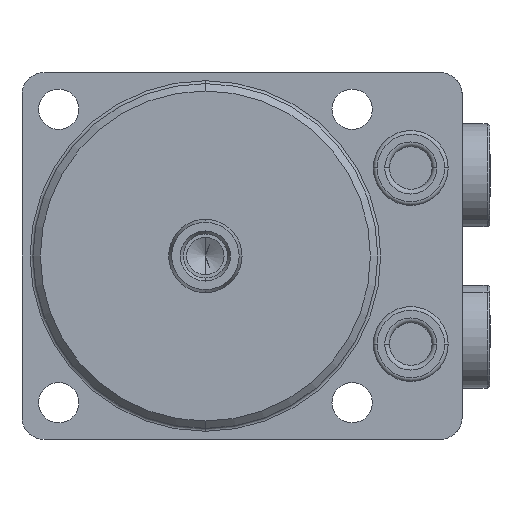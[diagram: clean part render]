
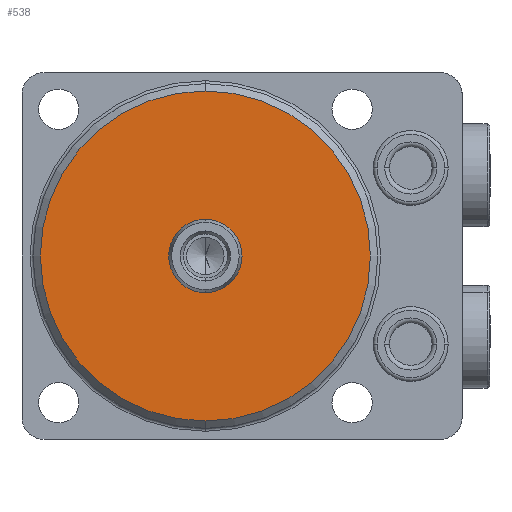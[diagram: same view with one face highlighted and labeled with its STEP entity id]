
A CAD part, front view. The second image highlights one B-rep face of the part: STEP entity #538.
In plain terms, the highlighted planar face has unit normal (0, -1, 0) as drawn and (0, 1, 0) by its records, which use the part's own axes.
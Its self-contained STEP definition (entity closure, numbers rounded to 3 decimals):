
#223=PLANE('',#3590);
#278=FACE_BOUND('',#971,.F.);
#279=FACE_BOUND('',#972,.F.);
#538=ADVANCED_FACE('',(#278,#279),#223,.T.);
#971=EDGE_LOOP('',(#2067,#2068));
#972=EDGE_LOOP('',(#2069,#2070));
#2067=ORIENTED_EDGE('',*,*,#2981,.T.);
#2068=ORIENTED_EDGE('',*,*,#2906,.T.);
#2069=ORIENTED_EDGE('',*,*,#2982,.T.);
#2070=ORIENTED_EDGE('',*,*,#2918,.T.);
#2516=VERTEX_POINT('',#5545);
#2517=VERTEX_POINT('',#5546);
#2528=VERTEX_POINT('',#5572);
#2529=VERTEX_POINT('',#5573);
#2906=EDGE_CURVE('',#2516,#2517,#3191,.T.);
#2918=EDGE_CURVE('',#2528,#2529,#3199,.T.);
#2981=EDGE_CURVE('',#2517,#2516,#3223,.T.);
#2982=EDGE_CURVE('',#2529,#2528,#3224,.T.);
#3191=CIRCLE('',#3539,5.);
#3199=CIRCLE('',#3550,22.5);
#3223=CIRCLE('',#3588,5.);
#3224=CIRCLE('',#3589,22.5);
#3539=AXIS2_PLACEMENT_3D('',#5544,#4378,#4379);
#3550=AXIS2_PLACEMENT_3D('',#5571,#4404,#4405);
#3588=AXIS2_PLACEMENT_3D('',#5704,#4514,#4515);
#3589=AXIS2_PLACEMENT_3D('',#5705,#4516,#4517);
#3590=AXIS2_PLACEMENT_3D('',#5706,#4518,#4519);
#4378=DIRECTION('',(0.,1.,0.));
#4379=DIRECTION('',(0.,0.,1.));
#4404=DIRECTION('',(0.,-1.,0.));
#4405=DIRECTION('',(0.,0.,1.));
#4514=DIRECTION('',(0.,1.,0.));
#4515=DIRECTION('',(0.,0.,1.));
#4516=DIRECTION('',(0.,-1.,0.));
#4517=DIRECTION('',(0.,0.,1.));
#4518=DIRECTION('',(0.,1.,0.));
#4519=DIRECTION('',(0.,0.,1.));
#5544=CARTESIAN_POINT('',(0.,0.,0.));
#5545=CARTESIAN_POINT('',(0.,0.,-5.));
#5546=CARTESIAN_POINT('',(0.,0.,5.));
#5571=CARTESIAN_POINT('',(0.,0.,0.));
#5572=CARTESIAN_POINT('',(0.,0.,-22.5));
#5573=CARTESIAN_POINT('',(0.,0.,22.5));
#5704=CARTESIAN_POINT('',(0.,0.,0.));
#5705=CARTESIAN_POINT('',(0.,0.,0.));
#5706=CARTESIAN_POINT('',(-25.,0.,25.));
